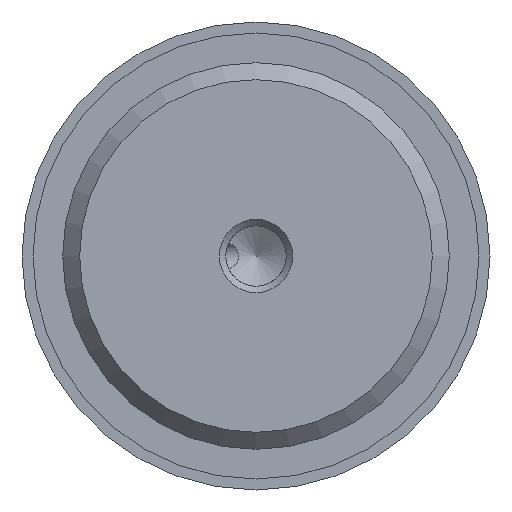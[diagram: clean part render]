
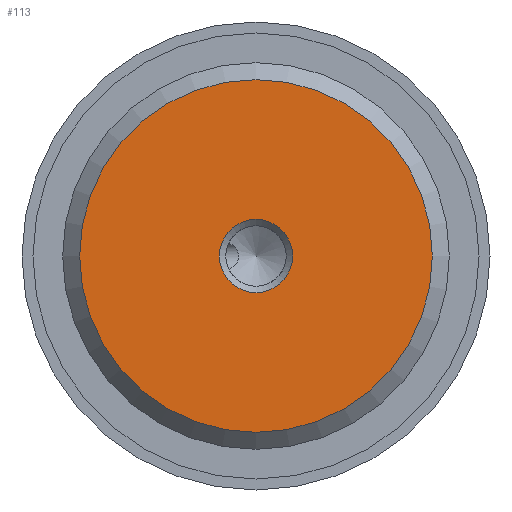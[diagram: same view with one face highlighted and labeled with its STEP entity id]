
A CAD part, front view. The second image highlights one B-rep face of the part: STEP entity #113.
In plain terms, the highlighted planar face has unit normal (0, -1, 0).
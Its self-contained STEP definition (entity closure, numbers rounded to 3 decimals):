
#113 = ADVANCED_FACE( '', ( #220, #221 ), #222, .F. );
#220 = FACE_BOUND( '', #363, .T. );
#221 = FACE_OUTER_BOUND( '', #364, .T. );
#222 = PLANE( '', #365 );
#363 = EDGE_LOOP( '', ( #727 ) );
#364 = EDGE_LOOP( '', ( #728 ) );
#365 = AXIS2_PLACEMENT_3D( '', #729, #730, #731 );
#727 = ORIENTED_EDGE( '', *, *, #1027, .F. );
#728 = ORIENTED_EDGE( '', *, *, #1029, .T. );
#729 = CARTESIAN_POINT( '', ( 12.059, 0., 0. ) );
#730 = DIRECTION( '', ( 0., 1., 0. ) );
#731 = DIRECTION( '', ( 0., 0., 1. ) );
#1027 = EDGE_CURVE( '', #1253, #1253, #1254, .T. );
#1029 = EDGE_CURVE( '', #1257, #1257, #1258, .T. );
#1253 = VERTEX_POINT( '', #1698 );
#1254 = CIRCLE( '', #1699, 2.5 );
#1257 = VERTEX_POINT( '', #1702 );
#1258 = CIRCLE( '', #1703, 12.059 );
#1698 = CARTESIAN_POINT( '', ( 2.5, 0., 0. ) );
#1699 = AXIS2_PLACEMENT_3D( '', #1881, #1882, #1883 );
#1702 = CARTESIAN_POINT( '', ( 0., 0., -12.059 ) );
#1703 = AXIS2_PLACEMENT_3D( '', #1887, #1888, #1889 );
#1881 = CARTESIAN_POINT( '', ( 0., 0., 0. ) );
#1882 = DIRECTION( '', ( 0., -1., 0. ) );
#1883 = DIRECTION( '', ( 1., 0., 0. ) );
#1887 = CARTESIAN_POINT( '', ( 0., 0., 0. ) );
#1888 = DIRECTION( '', ( 0., -1., 0. ) );
#1889 = DIRECTION( '', ( 0., 0., -1. ) );
